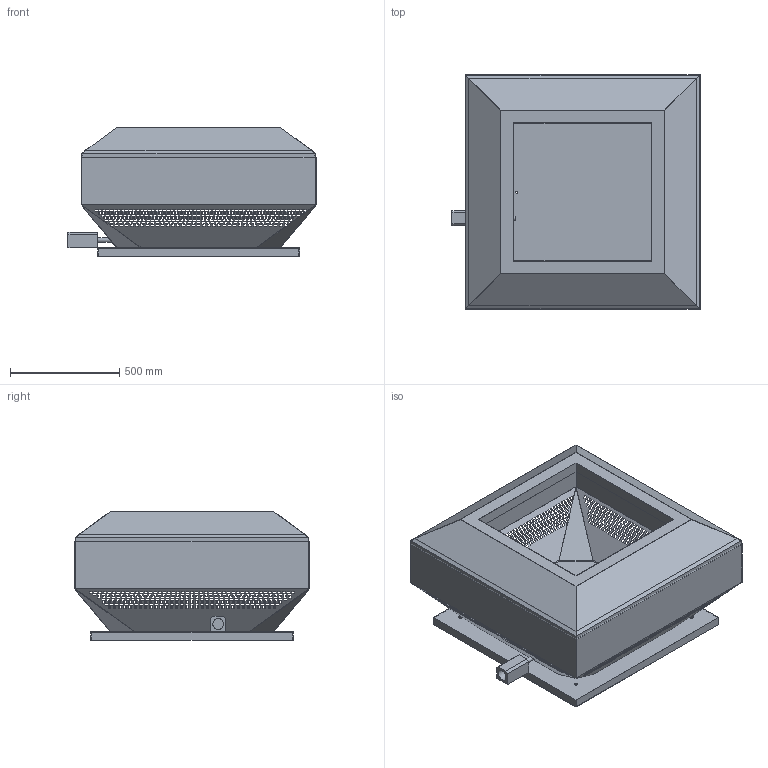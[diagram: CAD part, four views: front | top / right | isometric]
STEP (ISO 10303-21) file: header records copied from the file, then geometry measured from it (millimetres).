
FILE_DESCRIPTION(/* description */ (''),/* implementation_level */ '2;1');
FILE_NAME(/* name */ 'Z:\Output\RDD 560-6 EX-07432-001.stp',/* time_stamp */ '2017-05-05T16:51:29+02:00',/* author */ ('engineering1'),/* organization */ (''),/* preprocessor_version */ 'ST-DEVELOPER v16.5',/* originating_system */ 'Autodesk Inventor 2017',/* authorisation */ '');
FILE_SCHEMA (('AUTOMOTIVE_DESIGN { 1 0 10303 214 3 1 1 }'));
Products named in the file (1): RD-2
Bounding box: 1136 x 1075 x 590.5 mm (x, y, z)
Volume: 8438958.9 mm3; surface area: 7740939.8 mm2
Topology: 1 solids, 1 shells, 4779 faces, 14315 edges, 9524 vertices
Faces by surface type: plane 4767, cylinder 10, bspline 2
Full cylindrical faces by diameter (mm): 10 x1, 14 x4, 20 x4, 50 x1
Entity records: 162183 total; most frequent: CARTESIAN_POINT 28653, ORIENTED_EDGE 28600, DIRECTION 23875, EDGE_CURVE 14299, LINE 14279, VECTOR 14279, VERTEX_POINT 9522, EDGE_LOOP 7134
